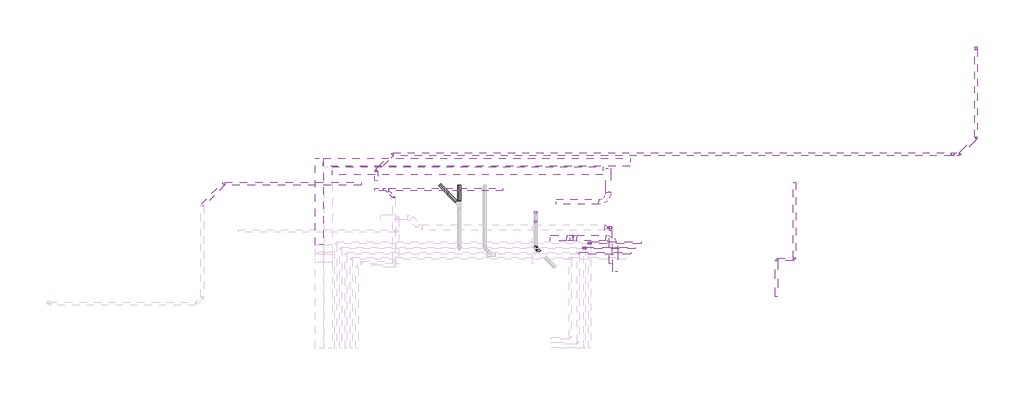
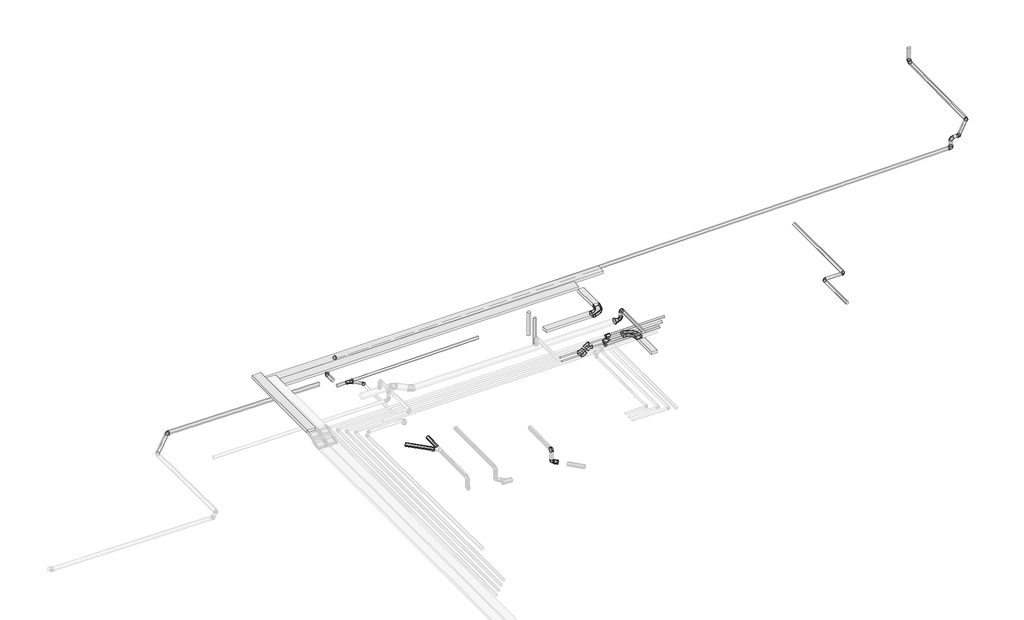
# One storey, part 5 of 5: 26 pipe segments, 19 pipe fittings, 9 cable carrier segments, 4 cable carrier fittings, 3 duct fittings, 2 duct segments.
"""IFC4 building model written with IfcOpenShell, lengths in millimetres."""

from ifc_helpers import new_model, si_unit, point, frame, frame_2d, origin, place, context, project, spatial, polyline, circle_curve, trimmed, segment, composite_curve, outline, extrude, transform, mapped, element, save
from components import m_codo_horizontal_de_canal_el_01cafb92, m_codo_vertical_exterior_de_canal_sf_2009c7b2, m_codo_vertical_interior_de_canal_sf_1a39cf6d, duct_fitting_e1dc29f6, m_codo_redondo_ext_1_d_85067ab4, pipe_fitting_b994c117, pipe_fitting_7b861d32, pipe_fitting_67d104e7, pipe_fitting_3454c7e7, pipe_fitting_f9aaa2fa, pipe_fitting_5746b48a, pipe_fitting_3a68447e, pipe_fitting_22462b75, pipe_fitting_87aeffad, pipe_fitting_1794739a, pipe_fitting_8d725a5c, pipe_fitting_c1f1a72e, t_soldadura_a_enchufe_ff252817

model = new_model("IFC4")

# Units and contexts
model_context = context("Model", 3, world=origin())
ifc_project = project(units=[si_unit("LENGTHUNIT", "METRE", prefix="MILLI")], contexts=[model_context])

# Site, building, storey
site = spatial("IfcSite", under=ifc_project)
building = spatial("IfcBuilding", under=site)
storey = spatial("IfcBuildingStorey", under=building, Name="Nivell 01 P01_PP", Elevation=11160.0)

# Cable carrier fittings
placement = place(None, origin())
m_codo_horizontal_de_canal_el_shape = m_codo_horizontal_de_canal_el_01cafb92(model_context)
element("IfcCableCarrierFitting", 1, ObjectType="M_Codo horizontal de canal : EL", at=placement, inside=storey, context=model_context, shape_type="MappedRepresentation", body=[
    mapped(m_codo_horizontal_de_canal_el_shape, transform((16260.4560007, 7993.9729991, 13970.0), x_axis=(1.0, 0.0, 0.0), y_axis=(0.0, 1.0, 0.0), z_axis=(0.0, 0.0, 1.0))),
])
element("IfcCableCarrierFitting", 2, ObjectType="M_Codo horizontal de canal : SF", at=placement, inside=storey, context=model_context, shape_type="MappedRepresentation", body=[
    mapped(m_codo_horizontal_de_canal_el_shape, transform((16540.4560007, 6585.5467988, 13970.0), x_axis=(0.0, 1.0, 0.0), y_axis=(-1.0, 0.0, 0.0), z_axis=(0.0, 0.0, 1.0))),
])
m_codo_vertical_exterior_de_canal_sf_shape = m_codo_vertical_exterior_de_canal_sf_2009c7b2(model_context)
element("IfcCableCarrierFitting", 3, ObjectType="M_Codo vertical exterior de canal : SF", at=placement, inside=storey, context=model_context, shape_type="MappedRepresentation", body=[
    mapped(m_codo_vertical_exterior_de_canal_sf_shape, transform((14940.4560007, 6585.5467988, 13970.0), x_axis=(-1.0, 0.0, 0.0), y_axis=(0.0, 0.0, -1.0), z_axis=(0.0, -1.0, 0.0))),
])
m_codo_vertical_interior_de_canal_sf_shape = m_codo_vertical_interior_de_canal_sf_1a39cf6d(model_context)
element("IfcCableCarrierFitting", 4, ObjectType="M_Codo vertical interior de canal : SF", at=placement, inside=storey, context=model_context, shape_type="MappedRepresentation", body=[
    mapped(m_codo_vertical_interior_de_canal_sf_shape, transform((14749.5371698, 6585.5467988, 13779.0811691), x_axis=(-0.707106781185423, 0.0, -0.7071067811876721), y_axis=(-0.7071067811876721, 0.0, 0.707106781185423), z_axis=(0.0, 1.0, 0.0))),
])

# Cable carrier segments
element("IfcCableCarrierSegment", 5, ObjectType="EL", at=placement, inside=storey, context=model_context, shape_type="SweptSolid", body=[
    extrude(outline(polyline([(17114.9442475, 9685.9660196), (17114.9442475, 9385.9660196), (5158.2381883, 9385.9660196), (5158.2381883, 9685.9660196), (17114.9442475, 9685.9660196)])), frame((0.0, 0.0, 14210.0), z_axis=(0.0, 0.0, 1.0), x_axis=(1.0, 0.0, 0.0)), (0.0, 0.0, 1.0), 100.0),
])
element("IfcCableCarrierSegment", 6, ObjectType="EL", at=placement, inside=storey, context=model_context, shape_type="SweptSolid", body=[
    extrude(outline(polyline([(5507.0671065, 9056.732053), (5507.0671065, 9356.732053), (16057.0671065, 9356.732053), (16057.0671065, 9056.732053), (5507.0671065, 9056.732053)])), frame((0.0, 0.0, 14210.0), z_axis=(0.0, 0.0, 1.0), x_axis=(1.0, 0.0, 0.0)), (0.0, 0.0, 1.0), 100.0),
])
element("IfcCableCarrierSegment", 7, ObjectType="EL", at=placement, inside=storey, context=model_context, shape_type="SweptSolid", body=[
    extrude(outline(polyline([(14245.4560007, 7893.9729991), (14245.4560007, 8093.9729991), (15885.4560007, 8093.9729991), (15885.4560007, 7893.9729991), (14245.4560007, 7893.9729991)])), frame((0.0, 0.0, 13920.0), z_axis=(0.0, 0.0, 1.0), x_axis=(1.0, 0.0, 0.0)), (0.0, 0.0, 1.0), 100.0),
])
element("IfcCableCarrierSegment", 8, ObjectType="EL", at=placement, inside=storey, context=model_context, shape_type="SweptSolid", body=[
    extrude(outline(polyline([(16360.4560007, 8368.9729991), (16160.4560007, 8368.9729991), (16160.4560007, 9293.9729991), (16360.4560007, 9293.9729991), (16360.4560007, 8368.9729991)])), frame((0.0, 0.0, 13920.0), z_axis=(0.0, 0.0, 1.0), x_axis=(1.0, 0.0, 0.0)), (0.0, 0.0, 1.0), 100.0),
])
element("IfcCableCarrierSegment", 9, ObjectType="EL", at=placement, inside=storey, context=model_context, shape_type="SweptSolid", body=[
    extrude(outline(polyline([(4858.2381883, 9685.9660196), (5158.2381883, 9685.9660196), (5158.2381883, 6318.3981673), (4858.2381883, 6318.3981673), (4858.2381883, 9685.9660196)])), frame((0.0, 0.0, 14410.0), z_axis=(0.0, 0.0, 1.0), x_axis=(1.0, 0.0, 0.0)), (0.0, 0.0, 1.0), 100.0),
])
element("IfcCableCarrierSegment", 10, ObjectType="SF", at=placement, inside=storey, context=model_context, shape_type="SweptSolid", body=[
    extrude(outline(polyline([(16165.4560007, 6685.5467988), (16165.4560007, 6485.5467988), (15040.3088145, 6485.5467988), (15040.3088145, 6685.5467988), (16165.4560007, 6685.5467988)])), frame((0.0, 0.0, 13920.0), z_axis=(0.0, 0.0, 1.0), x_axis=(1.0, 0.0, 0.0)), (0.0, 0.0, 1.0), 100.0),
])
element("IfcCableCarrierSegment", 11, ObjectType="SF", at=placement, inside=storey, context=model_context, shape_type="SweptSolid", body=[
    extrude(outline(polyline([(16640.4560007, 5265.5467988), (16440.4560007, 5265.5467988), (16440.4560007, 6210.5467988), (16640.4560007, 6210.5467988), (16640.4560007, 5265.5467988)])), frame((0.0, 0.0, 13920.0), z_axis=(0.0, 0.0, 1.0), x_axis=(1.0, 0.0, 0.0)), (0.0, 0.0, 1.0), 100.0),
])
element("IfcCableCarrierSegment", 12, ObjectType="SF", at=placement, inside=storey, context=model_context, shape_type="SweptSolid", body=[
    extrude(outline(polyline([(50.0000001, -11.8033989), (50.0000001, -211.8033989), (-50.0, -211.8033989), (-50.0, -11.8033989), (50.0000001, -11.8033989)])), frame((14820.1437715, 6697.3501977, 13849.6877708), z_axis=(0.7071067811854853, 0.0, 0.7071067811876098), x_axis=(0.7071067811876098, 0.0, -0.7071067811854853)), (0.0, 0.0, 1.0), 70.2943725),
])
element("IfcCableCarrierSegment", 13, ObjectType="SF", at=placement, inside=storey, context=model_context, shape_type="SweptSolid", body=[
    extrude(outline(polyline([(14649.6843561, 6685.5467988), (14649.6843561, 6485.5467988), (14009.5371698, 6485.5467988), (14009.5371698, 6685.5467988), (14649.6843561, 6685.5467988)])), frame((0.0, 0.0, 13729.0811691), z_axis=(0.0, 0.0, 1.0), x_axis=(1.0, 0.0, 0.0)), (0.0, 0.0, 1.0), 100.0),
])

# Duct fittings
duct_fitting_shape = duct_fitting_e1dc29f6(model_context)
element("IfcDuctFitting", 14, ObjectType="M_Transición redonda - Ángulo : EXT_45 graus", at=placement, inside=storey, context=model_context, shape_type="MappedRepresentation", body=[
    mapped(duct_fitting_shape, transform((16250.5896993, 6992.2199701, 14240.0), x_axis=(-1.0, 0.0, 0.0), y_axis=(0.0, -1.0, 0.0), z_axis=(0.0, 0.0, 1.0))),
])
m_codo_redondo_ext_1_d_shape = m_codo_redondo_ext_1_d_85067ab4(model_context)
element("IfcDuctFitting", 15, ObjectType="M_Codo redondo : EXT_1 D", at=placement, inside=storey, context=model_context, shape_type="MappedRepresentation", body=[
    mapped(m_codo_redondo_ext_1_d_shape, transform((16350.5896993, 6992.2199701, 14610.0), x_axis=(0.0, 1.0, 0.0), y_axis=(0.0, 0.0, -1.0), z_axis=(-1.0, 0.0, 0.0))),
])
element("IfcDuctFitting", 16, ObjectType="M_Codo redondo : EXT_1 D", at=placement, inside=storey, context=model_context, shape_type="MappedRepresentation", body=[
    mapped(m_codo_redondo_ext_1_d_shape, transform((16350.5896993, 6992.2199701, 14240.0), x_axis=(0.0, 0.0, -1.0), y_axis=(-1.0, 0.0, 0.0), z_axis=(0.0, 1.0, 0.0))),
])

# Duct segments
element("IfcDuctSegment", 17, ObjectType="EXT_Acer Galvanitzat - Rígid", at=placement, inside=storey, context=model_context, shape_type="SweptSolid", body=[
    extrude(outline(composite_curve([segment(trimmed(circle_curve(frame_2d((14610.0, 16350.5896993)), 50.0), [point((14610.0, 16300.5896993))], [point((14560.0, 16350.5896993))], False, "CARTESIAN"), True, "CONTINUOUS"), segment(trimmed(circle_curve(frame_2d((14610.0, 16350.5896993)), 50.0), [point((14560.0, 16350.5896993))], [point((14610.0, 16400.5896993))], False, "CARTESIAN"), True, "CONTINUOUS"), segment(trimmed(circle_curve(frame_2d((14610.0, 16350.5896993)), 50.0), [point((14610.0, 16400.5896993))], [point((14660.0, 16350.5896993))], False, "CARTESIAN"), True, "CONTINUOUS"), segment(trimmed(circle_curve(frame_2d((14610.0, 16350.5896993)), 50.0), [point((14660.0, 16350.5896993))], [point((14610.0, 16300.5896993))], False, "CARTESIAN"), True, "CONTINUOUS")], self_intersect=False)), frame((0.0, 5590.7319202, 0.0), z_axis=(0.0, 1.0, 0.0), x_axis=(0.0, 0.0, 1.0)), (0.0, 0.0, 1.0), 1301.48805),
])
element("IfcDuctSegment", 18, ObjectType="EXT_Acer Galvanitzat - Rígid", at=placement, inside=storey, context=model_context, shape_type="SweptSolid", body=[
    extrude(outline(composite_curve([segment(trimmed(circle_curve(frame_2d((16350.5896993, 6992.2199701)), 50.0), [point((16400.5896993, 6992.2199701))], [point((16350.5896993, 6942.2199701))], False, "CARTESIAN"), True, "CONTINUOUS"), segment(trimmed(circle_curve(frame_2d((16350.5896993, 6992.2199701)), 50.0), [point((16350.5896993, 6942.2199701))], [point((16300.5896993, 6992.2199701))], False, "CARTESIAN"), True, "CONTINUOUS"), segment(trimmed(circle_curve(frame_2d((16350.5896993, 6992.2199701)), 50.0), [point((16300.5896993, 6992.2199701))], [point((16350.5896993, 7042.2199701))], False, "CARTESIAN"), True, "CONTINUOUS"), segment(trimmed(circle_curve(frame_2d((16350.5896993, 6992.2199701)), 50.0), [point((16350.5896993, 7042.2199701))], [point((16400.5896993, 6992.2199701))], False, "CARTESIAN"), True, "CONTINUOUS")], self_intersect=False)), frame((0.0, 0.0, 14340.0), z_axis=(0.0, 0.0, 1.0), x_axis=(1.0, 0.0, 0.0)), (0.0, 0.0, 1.0), 170.0),
])

# Pipe fittings
pipe_fitting_shape = pipe_fitting_b994c117(model_context)
element("IfcPipeFitting", 19, ObjectType="M_Codo - Genérico : Estándar", at=placement, inside=storey, context=model_context, shape_type="MappedRepresentation", body=[
    mapped(pipe_fitting_shape, transform((1289.6338429, 8697.1853916, 14217.6395791), x_axis=(-0.9999500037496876, 0.0, 0.009999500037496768), y_axis=(4.141685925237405e-05, -0.9999914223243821, 0.00414168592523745), z_axis=(0.009999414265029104, 0.004141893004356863, 0.9999414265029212))),
])
pipe_fitting_2_shape = pipe_fitting_7b861d32(model_context)
element("IfcPipeFitting", 20, ObjectType="M_Codo - Genérico : Estándar", at=placement, inside=storey, context=model_context, shape_type="MappedRepresentation", body=[
    mapped(pipe_fitting_2_shape, transform((7914.0627734, 8170.8910377, 14064.6011955), x_axis=(0.0, 0.9999500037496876, -0.00999950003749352), y_axis=(-0.999991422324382, -4.141685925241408e-05, -0.004141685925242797), z_axis=(-0.004141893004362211, 0.009999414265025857, 0.9999414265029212))),
])
pipe_fitting_3_shape = pipe_fitting_67d104e7(model_context)
element("IfcPipeFitting", 21, ObjectType="M_Codo - Genérico : Estándar", at=placement, inside=storey, context=model_context, shape_type="MappedRepresentation", body=[
    mapped(pipe_fitting_3_shape, transform((30589.4059114, 10484.655764, 14624.9769213), x_axis=(0.0, -0.9999500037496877, -0.009999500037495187), y_axis=(0.9999914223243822, -4.141685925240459e-05, 0.004141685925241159), z_axis=(-0.004141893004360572, -0.009999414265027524, 0.9999414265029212))),
])
element("IfcPipeFitting", 22, ObjectType="M_Codo - Genérico : Estándar", at=placement, inside=storey, context=model_context, shape_type="MappedRepresentation", body=[
    mapped(pipe_fitting_3_shape, transform((7870.1942893, 9850.5932442, 14044.0689991), x_axis=(0.7070714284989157, 0.7070714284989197, 0.009999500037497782), y_axis=(-0.7070714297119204, 0.7071300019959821, -0.004141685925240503), z_axis=(-0.009999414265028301, -0.004141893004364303, 0.9999414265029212))),
])
element("IfcPipeFitting", 23, ObjectType="M_Codo - Genérico : Estándar", at=placement, inside=storey, context=model_context, shape_type="MappedRepresentation", body=[
    mapped(pipe_fitting_3_shape, transform((7222.9422017, 9203.3411566, 14034.9154723), x_axis=(0.0, 0.9999500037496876, 0.009999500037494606), y_axis=(-0.9999914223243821, 4.141685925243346e-05, -0.004141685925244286), z_axis=(-0.004141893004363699, -0.009999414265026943, 0.9999414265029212))),
])
pipe_fitting_4_shape = pipe_fitting_3454c7e7(model_context)
element("IfcPipeFitting", 24, ObjectType="M_Codo - Genérico : Estándar", at=placement, inside=storey, context=model_context, shape_type="MappedRepresentation", body=[
    mapped(pipe_fitting_4_shape, transform((30589.4059114, 13986.9636366, 14660.0), x_axis=(0.0, 0.0, -1.0), y_axis=(0.0, 1.0, 0.0), z_axis=(1.0, 0.0, 0.0))),
])
element("IfcPipeFitting", 25, ObjectType="M_Codo - Genérico : Estándar", at=placement, inside=storey, context=model_context, shape_type="MappedRepresentation", body=[
    mapped(pipe_fitting_4_shape, transform((29687.5503889, 9850.5932442, 14262.2425601), x_axis=(0.9999500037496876, 0.0, 0.00999950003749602), y_axis=(0.00999950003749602, 0.0, -0.9999500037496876), z_axis=(0.0, 1.0, 0.0))),
])
pipe_fitting_5_shape = pipe_fitting_f9aaa2fa(model_context)
element("IfcPipeFitting", 26, ObjectType="M_Codo - Genérico : Estándar", at=placement, inside=storey, context=model_context, shape_type="MappedRepresentation", body=[
    mapped(pipe_fitting_5_shape, transform((29955.352721, 9850.6025322, 14616.0030113), x_axis=(-0.7070713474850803, -0.7070713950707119, -0.010007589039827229), y_axis=(0.7070715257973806, -0.7071299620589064, 0.0041320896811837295), z_axis=(-0.009998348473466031, -0.004154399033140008, 0.9999413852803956))),
])
pipe_fitting_6_shape = pipe_fitting_5746b48a(model_context)
element("IfcPipeFitting", 27, ObjectType="M_Codo - Genérico : Estándar", at=placement, inside=storey, context=model_context, shape_type="MappedRepresentation", body=[
    mapped(pipe_fitting_6_shape, transform((29687.5503889, 9850.6025322, 14613.3252733), x_axis=(-0.9999500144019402, 0.0, -0.009998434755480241), y_axis=(-0.009998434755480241, 0.0, 0.9999500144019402), z_axis=(0.0, 1.0, 0.0))),
])
pipe_fitting_7_shape = pipe_fitting_3a68447e(model_context)
element("IfcPipeFitting", 28, ObjectType="M_Codo - Genérico : Estándar", at=placement, inside=storey, context=model_context, shape_type="MappedRepresentation", body=[
    mapped(pipe_fitting_7_shape, transform((15337.4352568, 6194.2427547, 14122.5), x_axis=(0.0, 0.0, -1.0), y_axis=(0.0, -1.0, 0.0), z_axis=(-1.0, 0.0, 0.0))),
])
element("IfcPipeFitting", 29, ObjectType="M_Codo - Genérico : Estándar", at=placement, inside=storey, context=model_context, shape_type="MappedRepresentation", body=[
    mapped(pipe_fitting_7_shape, transform((15537.4352568, 6394.2427547, 14122.5), x_axis=(0.0, 0.0, -1.0), y_axis=(0.0, -1.0, 0.0), z_axis=(-1.0, 0.0, 0.0))),
])
pipe_fitting_8_shape = pipe_fitting_22462b75(model_context)
element("IfcPipeFitting", 30, ObjectType="M_Te - Genérica : Estándar", at=placement, inside=storey, context=model_context, shape_type="MappedRepresentation", body=[
    mapped(pipe_fitting_8_shape, transform((7604.403606, 8480.5502052, 14060.2219535), x_axis=(0.9999500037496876, 0.0, 0.009999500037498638), y_axis=(4.141685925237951e-05, 0.9999914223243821, -0.004141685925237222), z_axis=(-0.009999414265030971, 0.004141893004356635, 0.9999414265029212))),
])
pipe_fitting_9_shape = pipe_fitting_87aeffad(model_context)
element("IfcPipeFitting", 31, ObjectType="M_Codo - Genérico : Estándar", at=placement, inside=storey, context=model_context, shape_type="MappedRepresentation", body=[
    mapped(pipe_fitting_9_shape, transform((22814.9203808, 5744.3728734, 14209.2), x_axis=(-1.0, 0.0, 0.0), y_axis=(0.0, -1.0, 0.0), z_axis=(0.0, 0.0, 1.0))),
])
element("IfcPipeFitting", 32, ObjectType="M_Codo - Genérico : Estándar", at=placement, inside=storey, context=model_context, shape_type="MappedRepresentation", body=[
    mapped(pipe_fitting_9_shape, transform((23514.9945789, 5744.3728734, 14209.2), x_axis=(1.0, 0.0, 0.0), y_axis=(0.0, 1.0, 0.0), z_axis=(0.0, 0.0, 1.0))),
])
pipe_fitting_10_shape = pipe_fitting_1794739a(model_context)
element("IfcPipeFitting", 33, ObjectType="M_Codo - Genérico : Estándar", at=placement, inside=storey, context=model_context, shape_type="MappedRepresentation", body=[
    mapped(pipe_fitting_10_shape, transform((13434.8502044, 6197.9727746, 10867.6717308), x_axis=(0.0, -0.0037186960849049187, 0.9999930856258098), y_axis=(0.0, 0.9999930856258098, 0.0037186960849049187), z_axis=(-1.0, 0.0, 0.0))),
])
pipe_fitting_11_shape = pipe_fitting_8d725a5c(model_context)
element("IfcPipeFitting", 34, ObjectType="M_Codo - Genérico : Estándar", at=placement, inside=storey, context=model_context, shape_type="MappedRepresentation", body=[
    mapped(pipe_fitting_11_shape, transform((13434.8502044, 6199.6089926, 10427.6770148), x_axis=(0.0, 0.0037186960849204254, -0.9999930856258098), y_axis=(0.7065070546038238, -0.7077011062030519, -0.0026317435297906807), z_axis=(-0.7077059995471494, -0.7065021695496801, -0.0026272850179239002))),
])
pipe_fitting_12_shape = pipe_fitting_c1f1a72e(model_context)
element("IfcPipeFitting", 35, ObjectType="M_Transición - Genérica : Estándar", at=placement, inside=storey, context=model_context, shape_type="MappedRepresentation", body=[
    mapped(pipe_fitting_12_shape, transform((13478.9883737, 6155.3979381, 10427.0522914), x_axis=(0.7064878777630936, -0.7076544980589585, -0.009999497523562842), y_axis=(0.7077059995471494, 0.70650216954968, 0.002627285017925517), z_axis=(0.005205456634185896, -0.008932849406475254, 0.9999465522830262))),
])
t_soldadura_a_enchufe_shape = t_soldadura_a_enchufe_ff252817(model_context)
element("IfcPipeFitting", 36, ObjectType="T-Soldadura a enchufe : Estándar", at=placement, inside=storey, context=model_context, shape_type="MappedRepresentation", body=[
    mapped(t_soldadura_a_enchufe_shape, transform((15337.4352568, 6194.2427547, 14272.5), x_axis=(-1.0, 0.0, 0.0), y_axis=(0.0, 0.0, 1.0), z_axis=(0.0, 1.0, 0.0))),
])
element("IfcPipeFitting", 37, ObjectType="T-Soldadura a enchufe : Estándar", at=placement, inside=storey, context=model_context, shape_type="MappedRepresentation", body=[
    mapped(t_soldadura_a_enchufe_shape, transform((15537.4352568, 6394.2427547, 14272.5), x_axis=(-1.0, 0.0, 0.0), y_axis=(0.0, 0.0, 1.0), z_axis=(0.0, 1.0, 0.0))),
])

# Pipe segments
element("IfcPipeSegment", 38, ObjectType="PVC_Baixant", at=placement, inside=storey, context=model_context, shape_type="SweptSolid", body=[
    extrude(outline(composite_curve([segment(trimmed(circle_curve(frame_2d((13434.5619983, 7581.1908892)), 55.0), [point((13379.5619983, 7581.1908892))], [point((13434.5619983, 7636.1908892))], False, "CARTESIAN"), True, "CONTINUOUS"), segment(trimmed(circle_curve(frame_2d((13434.5619983, 7581.1908892)), 55.0), [point((13434.5619983, 7636.1908892))], [point((13489.5619983, 7581.1908892))], False, "CARTESIAN"), True, "CONTINUOUS"), segment(trimmed(circle_curve(frame_2d((13434.5619983, 7581.1908892)), 55.0), [point((13489.5619983, 7581.1908892))], [point((13434.5619983, 7526.1908892))], False, "CARTESIAN"), True, "CONTINUOUS"), segment(trimmed(circle_curve(frame_2d((13434.5619983, 7581.1908892)), 55.0), [point((13434.5619983, 7526.1908892))], [point((13379.5619983, 7581.1908892))], False, "CARTESIAN"), True, "CONTINUOUS")], self_intersect=False)), frame((0.0, 0.0, 14322.3112718), z_axis=(0.0, 0.0, 1.0), x_axis=(1.0, 0.0, 0.0)), (0.0, 0.0, 1.0), 837.6887282),
])
element("IfcPipeSegment", 39, ObjectType="PVC_Baixant", at=placement, inside=storey, context=model_context, shape_type="SweptSolid", body=[
    extrude(outline(composite_curve([segment(trimmed(circle_curve(frame_2d((0.0, 45.0)), 45.0), [point((-45.0, 45.0))], [point((0.0, 90.0))], False, "CARTESIAN"), True, "CONTINUOUS"), segment(trimmed(circle_curve(frame_2d((0.0, 45.0)), 45.0), [point((0.0, 90.0))], [point((45.0, 45.0))], False, "CARTESIAN"), True, "CONTINUOUS"), segment(trimmed(circle_curve(frame_2d((0.0, 45.0)), 45.0), [point((45.0, 45.0))], [point((0.0, 0.0))], False, "CARTESIAN"), True, "CONTINUOUS"), segment(trimmed(circle_curve(frame_2d((0.0, 45.0)), 45.0), [point((0.0, 0.0))], [point((-45.0, 45.0))], False, "CARTESIAN"), True, "CONTINUOUS")], self_intersect=False)), frame((13440.7814256, 7174.9350253, 14175.6736808), z_axis=(7.499326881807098e-05, 1.4604734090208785e-06, 0.9999999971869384), x_axis=(0.9999999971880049, -1.0952661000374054e-10, -7.4993268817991e-05)), (0.0, 0.0, 1.0), 984.3263739),
])
element("IfcPipeSegment", 40, ObjectType="PVC_Baixant", at=placement, inside=storey, context=model_context, shape_type="SweptSolid", body=[
    extrude(outline(composite_curve([segment(trimmed(circle_curve(frame_2d((0.0, -45.0)), 45.0), [point((0.0, 0.0))], [point((45.0, -45.0))], False, "CARTESIAN"), True, "CONTINUOUS"), segment(trimmed(circle_curve(frame_2d((0.0, -45.0)), 45.0), [point((45.0, -45.0))], [point((0.0, -90.0))], False, "CARTESIAN"), True, "CONTINUOUS"), segment(trimmed(circle_curve(frame_2d((0.0, -45.0)), 45.0), [point((0.0, -90.0))], [point((-45.0, -45.0))], False, "CARTESIAN"), True, "CONTINUOUS"), segment(trimmed(circle_curve(frame_2d((0.0, -45.0)), 45.0), [point((-45.0, -45.0))], [point((0.0, 0.0))], False, "CARTESIAN"), True, "CONTINUOUS")], self_intersect=False)), frame((7715.5489162, 8525.5502052, 14061.3334066), z_axis=(0.9999500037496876, 0.0, 0.009999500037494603), x_axis=(0.009999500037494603, 0.0, -0.9999500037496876)), (0.0, 0.0, 1.0), 4443.1422128),
])
element("IfcPipeSegment", 41, ObjectType="PVC_Baixant", at=placement, inside=storey, context=model_context, shape_type="SweptSolid", body=[
    extrude(outline(composite_curve([segment(trimmed(circle_curve(frame_2d((30589.4059114, 13986.9636366)), 55.0), [point((30534.4059114, 13986.9636366))], [point((30589.4059114, 14041.9636366))], False, "CARTESIAN"), True, "CONTINUOUS"), segment(trimmed(circle_curve(frame_2d((30589.4059114, 13986.9636366)), 55.0), [point((30589.4059114, 14041.9636366))], [point((30644.4059114, 13986.9636366))], False, "CARTESIAN"), True, "CONTINUOUS"), segment(trimmed(circle_curve(frame_2d((30589.4059114, 13986.9636366)), 55.0), [point((30644.4059114, 13986.9636366))], [point((30589.4059114, 13931.9636366))], False, "CARTESIAN"), True, "CONTINUOUS"), segment(trimmed(circle_curve(frame_2d((30589.4059114, 13986.9636366)), 55.0), [point((30589.4059114, 13931.9636366))], [point((30534.4059114, 13986.9636366))], False, "CARTESIAN"), True, "CONTINUOUS")], self_intersect=False)), frame((0.0, 0.0, 14722.3112718), z_axis=(0.0, 0.0, 1.0), x_axis=(1.0, 0.0, 0.0)), (0.0, 0.0, 1.0), 437.6887282),
])
element("IfcPipeSegment", 42, ObjectType="PVC_Baixant", at=placement, inside=storey, context=model_context, shape_type="SweptSolid", body=[
    extrude(outline(composite_curve([segment(trimmed(circle_curve(frame_2d((0.0, -55.0)), 55.0), [point((-55.0, -55.0))], [point((0.0, 0.0))], False, "CARTESIAN"), True, "CONTINUOUS"), segment(trimmed(circle_curve(frame_2d((0.0, -55.0)), 55.0), [point((0.0, 0.0))], [point((55.0, -55.0))], False, "CARTESIAN"), True, "CONTINUOUS"), segment(trimmed(circle_curve(frame_2d((0.0, -55.0)), 55.0), [point((55.0, -55.0))], [point((0.0, -110.0))], False, "CARTESIAN"), True, "CONTINUOUS"), segment(trimmed(circle_curve(frame_2d((0.0, -55.0)), 55.0), [point((0.0, -110.0))], [point((-55.0, -55.0))], False, "CARTESIAN"), True, "CONTINUOUS")], self_intersect=False)), frame((30589.4059114, 10511.2724723, 14570.2403384), z_axis=(0.0, 0.9999500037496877, 0.009999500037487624), x_axis=(1.0, 0.0, 0.0)), (0.0, 0.0, 1.0), 3414.1036727),
])
element("IfcPipeSegment", 43, ObjectType="PVC_Baixant", at=placement, inside=storey, context=model_context, shape_type="SweptSolid", body=[
    extrude(outline(composite_curve([segment(trimmed(circle_curve(frame_2d((0.0, -55.0)), 55.0), [point((-54.997246, -54.4496102))], [point((0.5503898, -0.0027539))], False, "CARTESIAN"), True, "CONTINUOUS"), segment(trimmed(circle_curve(frame_2d((0.0, -55.0)), 55.0), [point((0.5503898, -0.0027539))], [point((54.997246, -55.5503898))], False, "CARTESIAN"), True, "CONTINUOUS"), segment(trimmed(circle_curve(frame_2d((0.0, -55.0)), 55.0), [point((54.997246, -55.5503898))], [point((-0.5503899, -109.9972461))], False, "CARTESIAN"), True, "CONTINUOUS"), segment(trimmed(circle_curve(frame_2d((0.0, -55.0)), 55.0), [point((-0.5503899, -109.9972461))], [point((-54.997246, -54.4496102))], False, "CARTESIAN"), True, "CONTINUOUS")], self_intersect=False)), frame((29973.7846855, 9869.8128666, 14561.2693976), z_axis=(0.7070713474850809, 0.7070713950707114, 0.010007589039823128), x_axis=(0.7071422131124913, -0.707000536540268, -0.010006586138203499)), (0.0, 0.0, 1.0), 844.5954746),
])
element("IfcPipeSegment", 44, ObjectType="PVC_Baixant", at=placement, inside=storey, context=model_context, shape_type="SweptSolid", body=[
    extrude(outline(composite_curve([segment(trimmed(circle_curve(frame_2d((0.0, -55.0)), 55.0), [point((0.0, 0.0))], [point((55.0, -55.0))], False, "CARTESIAN"), True, "CONTINUOUS"), segment(trimmed(circle_curve(frame_2d((0.0, -55.0)), 55.0), [point((55.0, -55.0))], [point((0.0, -110.0))], False, "CARTESIAN"), True, "CONTINUOUS"), segment(trimmed(circle_curve(frame_2d((0.0, -55.0)), 55.0), [point((0.0, -110.0))], [point((-55.0, -55.0))], False, "CARTESIAN"), True, "CONTINUOUS"), segment(trimmed(circle_curve(frame_2d((0.0, -55.0)), 55.0), [point((-55.0, -55.0))], [point((0.0, 0.0))], False, "CARTESIAN"), True, "CONTINUOUS")], self_intersect=False)), frame((7896.2610251, 9905.5932442, 14044.3296664), z_axis=(0.9999500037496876, 0.0, 0.009999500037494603), x_axis=(0.009999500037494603, 0.0, -0.9999500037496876)), (0.0, 0.0, 1.0), 21730.0676293),
])
element("IfcPipeSegment", 45, ObjectType="PVC_Baixant", at=placement, inside=storey, context=model_context, shape_type="SweptSolid", body=[
    extrude(outline(composite_curve([segment(trimmed(circle_curve(frame_2d((0.0, -55.0)), 55.0), [point((-54.9972505, -54.450055))], [point((0.549945, -0.0027495))], False, "CARTESIAN"), True, "CONTINUOUS"), segment(trimmed(circle_curve(frame_2d((0.0, -55.0)), 55.0), [point((0.549945, -0.0027495))], [point((54.9972505, -55.549945))], False, "CARTESIAN"), True, "CONTINUOUS"), segment(trimmed(circle_curve(frame_2d((0.0, -55.0)), 55.0), [point((54.9972505, -55.549945))], [point((-0.5499449, -109.9972505))], False, "CARTESIAN"), True, "CONTINUOUS"), segment(trimmed(circle_curve(frame_2d((0.0, -55.0)), 55.0), [point((-0.5499449, -109.9972505))], [point((-54.9972505, -54.450055))], False, "CARTESIAN"), True, "CONTINUOUS")], self_intersect=False)), frame((7241.3741673, 9222.5508619, 13980.1816388), z_axis=(0.7070714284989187, 0.7070714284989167, 0.009999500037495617), x_axis=(0.7071421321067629, -0.7070007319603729, -0.009998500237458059)), (0.0, 0.0, 1.0), 863.2623688),
])
element("IfcPipeSegment", 46, ObjectType="PVC_Baixant", at=placement, inside=storey, context=model_context, shape_type="SweptSolid", body=[
    extrude(outline(composite_curve([segment(trimmed(circle_curve(frame_2d((0.0, -55.0)), 55.0), [point((0.0, 0.0))], [point((55.0, -55.0))], False, "CARTESIAN"), True, "CONTINUOUS"), segment(trimmed(circle_curve(frame_2d((0.0, -55.0)), 55.0), [point((55.0, -55.0))], [point((0.0, -110.0))], False, "CARTESIAN"), True, "CONTINUOUS"), segment(trimmed(circle_curve(frame_2d((0.0, -55.0)), 55.0), [point((0.0, -110.0))], [point((-55.0, -55.0))], False, "CARTESIAN"), True, "CONTINUOUS"), segment(trimmed(circle_curve(frame_2d((0.0, -55.0)), 55.0), [point((-55.0, -55.0))], [point((0.0, 0.0))], False, "CARTESIAN"), True, "CONTINUOUS")], self_intersect=False)), frame((29749.8586125, 9905.6025322, 14613.9482891), z_axis=(0.9999500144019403, 0.0, 0.009998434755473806), x_axis=(0.009998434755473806, 0.0, -0.9999500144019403)), (0.0, 0.0, 1.0), 179.4363416),
])
element("IfcPipeSegment", 47, ObjectType="PVC_Baixant", at=placement, inside=storey, context=model_context, shape_type="SweptSolid", body=[
    extrude(outline(composite_curve([segment(trimmed(circle_curve(frame_2d((0.0, 55.0)), 55.0), [point((-55.0, 55.0))], [point((0.0, 110.0))], False, "CARTESIAN"), True, "CONTINUOUS"), segment(trimmed(circle_curve(frame_2d((0.0, 55.0)), 55.0), [point((0.0, 110.0))], [point((55.0, 55.0))], False, "CARTESIAN"), True, "CONTINUOUS"), segment(trimmed(circle_curve(frame_2d((0.0, 55.0)), 55.0), [point((55.0, 55.0))], [point((0.0, 0.0))], False, "CARTESIAN"), True, "CONTINUOUS"), segment(trimmed(circle_curve(frame_2d((0.0, 55.0)), 55.0), [point((0.0, 0.0))], [point((-55.0, 55.0))], False, "CARTESIAN"), True, "CONTINUOUS")], self_intersect=False)), frame((29687.5503889, 9795.5932442, 14324.5560876), z_axis=(0.0, 4.1014092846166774e-05, 0.9999999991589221), x_axis=(1.0, 0.0, 0.0)), (0.0, 0.0, 1.0), 226.4600963),
])
element("IfcPipeSegment", 48, ObjectType="PVC_Baixant", at=placement, inside=storey, context=model_context, shape_type="SweptSolid", body=[
    extrude(outline(composite_curve([segment(trimmed(circle_curve(frame_2d((0.0, -55.0)), 55.0), [point((-55.0, -55.0))], [point((0.0, 0.0))], False, "CARTESIAN"), True, "CONTINUOUS"), segment(trimmed(circle_curve(frame_2d((0.0, -55.0)), 55.0), [point((0.0, 0.0))], [point((55.0, -55.0))], False, "CARTESIAN"), True, "CONTINUOUS"), segment(trimmed(circle_curve(frame_2d((0.0, -55.0)), 55.0), [point((55.0, -55.0))], [point((0.0, -110.0))], False, "CARTESIAN"), True, "CONTINUOUS"), segment(trimmed(circle_curve(frame_2d((0.0, -55.0)), 55.0), [point((0.0, -110.0))], [point((-55.0, -55.0))], False, "CARTESIAN"), True, "CONTINUOUS")], self_intersect=False)), frame((7222.9422017, 8816.4255701, 13976.0435665), z_axis=(0.0, 0.999950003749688, 0.009999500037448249), x_axis=(1.0, 0.0, 0.0)), (0.0, 0.0, 1.0), 361.4168927),
])
element("IfcPipeSegment", 49, ObjectType="PPR_CLI_Aquatherm Blue Pipe", at=placement, inside=storey, context=model_context, shape_type="SweptSolid", body=[
    extrude(outline(composite_curve([segment(trimmed(circle_curve(frame_2d((5994.2427547, 14272.5)), 37.5), [point((5956.7427547, 14272.5))], [point((5994.2427547, 14310.0))], False, "CARTESIAN"), True, "CONTINUOUS"), segment(trimmed(circle_curve(frame_2d((5994.2427547, 14272.5)), 37.5), [point((5994.2427547, 14310.0))], [point((6031.7427547, 14272.5))], False, "CARTESIAN"), True, "CONTINUOUS"), segment(trimmed(circle_curve(frame_2d((5994.2427547, 14272.5)), 37.5), [point((6031.7427547, 14272.5))], [point((5994.2427547, 14235.0))], False, "CARTESIAN"), True, "CONTINUOUS"), segment(trimmed(circle_curve(frame_2d((5994.2427547, 14272.5)), 37.5), [point((5994.2427547, 14235.0))], [point((5956.7427547, 14272.5))], False, "CARTESIAN"), True, "CONTINUOUS")], self_intersect=False)), frame((15125.9352568, 0.0, 0.0), z_axis=(1.0, 0.0, 0.0), x_axis=(0.0, 1.0, 0.0)), (0.0, 0.0, 1.0), 2016.3840359),
])
element("IfcPipeSegment", 50, ObjectType="PPR_CLI_Aquatherm Blue Pipe", at=placement, inside=storey, context=model_context, shape_type="SweptSolid", body=[
    extrude(outline(composite_curve([segment(trimmed(circle_curve(frame_2d((6194.2427547, 14272.5)), 37.5), [point((6156.7427547, 14272.5))], [point((6194.2427547, 14310.0))], False, "CARTESIAN"), True, "CONTINUOUS"), segment(trimmed(circle_curve(frame_2d((6194.2427547, 14272.5)), 37.5), [point((6194.2427547, 14310.0))], [point((6231.7427547, 14272.5))], False, "CARTESIAN"), True, "CONTINUOUS"), segment(trimmed(circle_curve(frame_2d((6194.2427547, 14272.5)), 37.5), [point((6231.7427547, 14272.5))], [point((6194.2427547, 14235.0))], False, "CARTESIAN"), True, "CONTINUOUS"), segment(trimmed(circle_curve(frame_2d((6194.2427547, 14272.5)), 37.5), [point((6194.2427547, 14235.0))], [point((6156.7427547, 14272.5))], False, "CARTESIAN"), True, "CONTINUOUS")], self_intersect=False)), frame((15375.9352568, 0.0, 0.0), z_axis=(1.0, 0.0, 0.0), x_axis=(0.0, 1.0, 0.0)), (0.0, 0.0, 1.0), 1966.3840359),
])
element("IfcPipeSegment", 51, ObjectType="PPR_CLI_Aquatherm Blue Pipe", at=placement, inside=storey, context=model_context, shape_type="SweptSolid", body=[
    extrude(outline(composite_curve([segment(trimmed(circle_curve(frame_2d((6394.2427547, 14272.5)), 37.5), [point((6356.7427547, 14272.5))], [point((6394.2427547, 14310.0))], False, "CARTESIAN"), True, "CONTINUOUS"), segment(trimmed(circle_curve(frame_2d((6394.2427547, 14272.5)), 37.5), [point((6394.2427547, 14310.0))], [point((6431.7427547, 14272.5))], False, "CARTESIAN"), True, "CONTINUOUS"), segment(trimmed(circle_curve(frame_2d((6394.2427547, 14272.5)), 37.5), [point((6431.7427547, 14272.5))], [point((6394.2427547, 14235.0))], False, "CARTESIAN"), True, "CONTINUOUS"), segment(trimmed(circle_curve(frame_2d((6394.2427547, 14272.5)), 37.5), [point((6394.2427547, 14235.0))], [point((6356.7427547, 14272.5))], False, "CARTESIAN"), True, "CONTINUOUS")], self_intersect=False)), frame((15575.9352568, 0.0, 0.0), z_axis=(1.0, 0.0, 0.0), x_axis=(0.0, 1.0, 0.0)), (0.0, 0.0, 1.0), 1966.3840359),
])
element("IfcPipeSegment", 52, ObjectType="PPR_CLI_Aquatherm Blue Pipe", at=placement, inside=storey, context=model_context, shape_type="SweptSolid", body=[
    extrude(outline(composite_curve([segment(trimmed(circle_curve(frame_2d((15337.4352568, 6194.2427547)), 37.5), [point((15374.9352568, 6194.2427547))], [point((15337.4352568, 6156.7427547))], False, "CARTESIAN"), True, "CONTINUOUS"), segment(trimmed(circle_curve(frame_2d((15337.4352568, 6194.2427547)), 37.5), [point((15337.4352568, 6156.7427547))], [point((15299.9352568, 6194.2427547))], False, "CARTESIAN"), True, "CONTINUOUS"), segment(trimmed(circle_curve(frame_2d((15337.4352568, 6194.2427547)), 37.5), [point((15299.9352568, 6194.2427547))], [point((15337.4352568, 6231.7427547))], False, "CARTESIAN"), True, "CONTINUOUS"), segment(trimmed(circle_curve(frame_2d((15337.4352568, 6194.2427547)), 37.5), [point((15337.4352568, 6231.7427547))], [point((15374.9352568, 6194.2427547))], False, "CARTESIAN"), True, "CONTINUOUS")], self_intersect=False)), frame((0.0, 0.0, 14167.9375), z_axis=(0.0, 0.0, 1.0), x_axis=(1.0, 0.0, 0.0)), (0.0, 0.0, 1.0), 66.0625),
])
element("IfcPipeSegment", 53, ObjectType="PPR_CLI_Aquatherm Blue Pipe", at=placement, inside=storey, context=model_context, shape_type="SweptSolid", body=[
    extrude(outline(composite_curve([segment(trimmed(circle_curve(frame_2d((15537.4352568, 6394.2427547)), 37.5), [point((15574.9352568, 6394.2427547))], [point((15537.4352568, 6356.7427547))], False, "CARTESIAN"), True, "CONTINUOUS"), segment(trimmed(circle_curve(frame_2d((15537.4352568, 6394.2427547)), 37.5), [point((15537.4352568, 6356.7427547))], [point((15499.9352568, 6394.2427547))], False, "CARTESIAN"), True, "CONTINUOUS"), segment(trimmed(circle_curve(frame_2d((15537.4352568, 6394.2427547)), 37.5), [point((15499.9352568, 6394.2427547))], [point((15537.4352568, 6431.7427547))], False, "CARTESIAN"), True, "CONTINUOUS"), segment(trimmed(circle_curve(frame_2d((15537.4352568, 6394.2427547)), 37.5), [point((15537.4352568, 6431.7427547))], [point((15574.9352568, 6394.2427547))], False, "CARTESIAN"), True, "CONTINUOUS")], self_intersect=False)), frame((0.0, 0.0, 14167.9375), z_axis=(0.0, 0.0, 1.0), x_axis=(1.0, 0.0, 0.0)), (0.0, 0.0, 1.0), 66.0625),
])
element("IfcPipeSegment", 54, ObjectType="PVC_Baixant", at=placement, inside=storey, context=model_context, shape_type="SweptSolid", body=[
    extrude(outline(composite_curve([segment(trimmed(circle_curve(frame_2d((0.0, -45.0)), 45.0), [point((44.9977504, -44.550045))], [point((0.4499551, -89.9977504))], False, "CARTESIAN"), True, "CONTINUOUS"), segment(trimmed(circle_curve(frame_2d((0.0, -45.0)), 45.0), [point((0.4499551, -89.9977504))], [point((-44.9977503, -45.449955))], False, "CARTESIAN"), True, "CONTINUOUS"), segment(trimmed(circle_curve(frame_2d((0.0, -45.0)), 45.0), [point((-44.9977503, -45.449955))], [point((-0.449955, -0.0022496))], False, "CARTESIAN"), True, "CONTINUOUS"), segment(trimmed(circle_curve(frame_2d((0.0, -45.0)), 45.0), [point((-0.449955, -0.0022496))], [point((44.9977504, -44.550045))], False, "CARTESIAN"), True, "CONTINUOUS")], self_intersect=False)), frame((7682.9952085, 8402.5949351, 14106.3289073), z_axis=(0.7070714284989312, -0.7070714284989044, 0.009999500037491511), x_axis=(0.7071421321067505, 0.7070007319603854, -0.009998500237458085)), (0.0, 0.0, 1.0), 305.0968807),
])
element("IfcPipeSegment", 55, ObjectType="PVC_Baixant", at=placement, inside=storey, context=model_context, shape_type="SweptSolid", body=[
    extrude(outline(composite_curve([segment(trimmed(circle_curve(frame_2d((0.0, -45.0)), 45.0), [point((0.0, 0.0))], [point((45.0, -45.0))], False, "CARTESIAN"), True, "CONTINUOUS"), segment(trimmed(circle_curve(frame_2d((0.0, -45.0)), 45.0), [point((45.0, -45.0))], [point((0.0, -90.0))], False, "CARTESIAN"), True, "CONTINUOUS"), segment(trimmed(circle_curve(frame_2d((0.0, -45.0)), 45.0), [point((0.0, -90.0))], [point((-45.0, -45.0))], False, "CARTESIAN"), True, "CONTINUOUS"), segment(trimmed(circle_curve(frame_2d((0.0, -45.0)), 45.0), [point((-45.0, -45.0))], [point((0.0, 0.0))], False, "CARTESIAN"), True, "CONTINUOUS")], self_intersect=False)), frame((7170.4469649, 8525.5502052, 14055.8823871), z_axis=(0.9999500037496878, 0.0, 0.009999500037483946), x_axis=(0.009999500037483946, 0.0, -0.9999500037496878)), (0.0, 0.0, 1.0), 322.8274709),
])
element("IfcPipeSegment", 56, ObjectType="PVC_Baixant", at=placement, inside=storey, context=model_context, shape_type="SweptSolid", body=[
    extrude(outline(composite_curve([segment(trimmed(circle_curve(frame_2d((0.0, -54.9999999)), 55.0), [point((-54.9972503, -55.5499725))], [point((-0.5499725, -0.0027497))], False, "CARTESIAN"), True, "CONTINUOUS"), segment(trimmed(circle_curve(frame_2d((0.0, -54.9999999)), 55.0), [point((-0.5499725, -0.0027497))], [point((54.9972502, -54.4500274))], False, "CARTESIAN"), True, "CONTINUOUS"), segment(trimmed(circle_curve(frame_2d((0.0, -54.9999999)), 55.0), [point((54.9972502, -54.4500274))], [point((0.5499725, -109.9972502))], False, "CARTESIAN"), True, "CONTINUOUS"), segment(trimmed(circle_curve(frame_2d((0.0, -54.9999999)), 55.0), [point((0.5499725, -109.9972502))], [point((-54.9972503, -55.5499725))], False, "CARTESIAN"), True, "CONTINUOUS")], self_intersect=False)), frame((10342.8583083, 8003.1065056, 10816.693123), z_axis=(-0.7070891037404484, 0.7070537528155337, 0.009999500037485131), x_axis=(0.7071244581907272, 0.7070184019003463, 0.009999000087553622)), (0.0, 0.0, 1.0), 917.9758059),
])
element("IfcPipeSegment", 57, ObjectType="PVC_Baixant", at=placement, inside=storey, context=model_context, shape_type="SweptSolid", body=[
    extrude(outline(composite_curve([segment(trimmed(circle_curve(frame_2d((0.0, -55.0)), 55.0), [point((-55.0, -55.0000005))], [point((-6e-07, 0.0))], False, "CARTESIAN"), True, "CONTINUOUS"), segment(trimmed(circle_curve(frame_2d((0.0, -55.0)), 55.0), [point((-6e-07, 0.0))], [point((55.0, -54.9999995))], False, "CARTESIAN"), True, "CONTINUOUS"), segment(trimmed(circle_curve(frame_2d((0.0, -55.0)), 55.0), [point((55.0, -54.9999995))], [point((5e-07, -110.0))], False, "CARTESIAN"), True, "CONTINUOUS"), segment(trimmed(circle_curve(frame_2d((0.0, -55.0)), 55.0), [point((5e-07, -110.0))], [point((-55.0, -55.0000005))], False, "CARTESIAN"), True, "CONTINUOUS")], self_intersect=False)), frame((10460.2240563, 8022.8645871, 10819.7610919), z_axis=(-9.574676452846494e-07, 0.9999500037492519, 0.009999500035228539), x_axis=(0.9999999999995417, 9.57419775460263e-07, 9.574200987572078e-09)), (0.0, 0.0, 1.0), 612.5518339),
])
element("IfcPipeSegment", 58, ObjectType="PVC_Baixant", at=placement, inside=storey, context=model_context, shape_type="SweptSolid", body=[
    extrude(outline(composite_curve([segment(trimmed(circle_curve(frame_2d((-1e-07, -62.5)), 62.5), [point((-62.4968858, -63.1239072))], [point((-0.6239072, -0.0031142))], False, "CARTESIAN"), True, "CONTINUOUS"), segment(trimmed(circle_curve(frame_2d((-1e-07, -62.5)), 62.5), [point((-0.6239072, -0.0031142))], [point((62.4968858, -61.8760928))], False, "CARTESIAN"), True, "CONTINUOUS"), segment(trimmed(circle_curve(frame_2d((-1e-07, -62.5)), 62.5), [point((62.4968858, -61.8760928))], [point((0.6239072, -124.9968859))], False, "CARTESIAN"), True, "CONTINUOUS"), segment(trimmed(circle_curve(frame_2d((-1e-07, -62.5)), 62.5), [point((0.6239072, -124.9968859))], [point((-62.4968858, -63.1239072))], False, "CARTESIAN"), True, "CONTINUOUS")], self_intersect=False)), frame((13579.5531731, 6055.5715035, 10363.1353058), z_axis=(-0.7064878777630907, 0.7076544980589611, 0.009999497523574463), x_axis=(0.7077251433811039, 0.7064173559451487, 0.00998201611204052)), (0.0, 0.0, 1.0), 109.7858249),
])
element("IfcPipeSegment", 59, ObjectType="PVC_Baixant", at=placement, inside=storey, context=model_context, shape_type="SweptSolid", body=[
    extrude(outline(composite_curve([segment(trimmed(circle_curve(frame_2d((0.0, -62.5)), 62.5), [point((62.4968755, -63.1249375))], [point((-0.6249376, -124.9968756))], False, "CARTESIAN"), True, "CONTINUOUS"), segment(trimmed(circle_curve(frame_2d((0.0, -62.5)), 62.5), [point((-0.6249376, -124.9968756))], [point((-62.4968756, -61.8750625))], False, "CARTESIAN"), True, "CONTINUOUS"), segment(trimmed(circle_curve(frame_2d((0.0, -62.5)), 62.5), [point((-62.4968756, -61.8750625))], [point((0.6249374, -0.0031244))], False, "CARTESIAN"), True, "CONTINUOUS"), segment(trimmed(circle_curve(frame_2d((0.0, -62.5)), 62.5), [point((0.6249374, -0.0031244))], [point((62.4968755, -63.1249375))], False, "CARTESIAN"), True, "CONTINUOUS")], self_intersect=False)), frame((1268.7125552, 8677.147899, 14280.4292017), z_axis=(-0.7070714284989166, -0.707071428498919, 0.009999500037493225), x_axis=(0.7071421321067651, -0.7070007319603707, 0.00999850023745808)), (0.0, 0.0, 1.0), 1130.8388471),
])
element("IfcPipeSegment", 60, ObjectType="PVC_Baixant", at=placement, inside=storey, context=model_context, shape_type="SweptSolid", body=[
    extrude(outline(composite_curve([segment(trimmed(circle_curve(frame_2d((0.0, -62.5)), 62.5), [point((0.0, -125.0))], [point((-62.5000001, -62.5))], False, "CARTESIAN"), True, "CONTINUOUS"), segment(trimmed(circle_curve(frame_2d((0.0, -62.5)), 62.5), [point((-62.5000001, -62.5))], [point((0.0, 0.0))], False, "CARTESIAN"), True, "CONTINUOUS"), segment(trimmed(circle_curve(frame_2d((0.0, -62.5)), 62.5), [point((0.0, 0.0))], [point((62.5, -62.5))], False, "CARTESIAN"), True, "CONTINUOUS"), segment(trimmed(circle_curve(frame_2d((0.0, -62.5)), 62.5), [point((62.5, -62.5))], [point((0.0, -125.0))], False, "CARTESIAN"), True, "CONTINUOUS")], self_intersect=False)), frame((6649.365863, 8759.6853916, 14164.0422589), z_axis=(-0.9999500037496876, 0.0, 0.009999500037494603), x_axis=(0.009999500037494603, 0.0, 0.9999500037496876)), (0.0, 0.0, 1.0), 5330.4113519),
])
element("IfcPipeSegment", 61, ObjectType="AN_CI", at=placement, inside=storey, context=model_context, shape_type="SweptSolid", body=[
    extrude(outline(composite_curve([segment(trimmed(circle_curve(frame_2d((14209.2, 22814.9203808)), 50.8), [point((14209.2, 22865.7203808))], [point((14260.0, 22814.9203808))], False, "CARTESIAN"), True, "CONTINUOUS"), segment(trimmed(circle_curve(frame_2d((14209.2, 22814.9203808)), 50.8), [point((14260.0, 22814.9203808))], [point((14209.2, 22764.1203808))], False, "CARTESIAN"), True, "CONTINUOUS"), segment(trimmed(circle_curve(frame_2d((14209.2, 22814.9203808)), 50.8), [point((14209.2, 22764.1203808))], [point((14158.4, 22814.9203808))], False, "CARTESIAN"), True, "CONTINUOUS"), segment(trimmed(circle_curve(frame_2d((14209.2, 22814.9203808)), 50.8), [point((14158.4, 22814.9203808))], [point((14209.2, 22865.7203808))], False, "CARTESIAN"), True, "CONTINUOUS")], self_intersect=False)), frame((0.0, 4296.7603734, 0.0), z_axis=(0.0, 1.0, 0.0), x_axis=(0.0, 0.0, 1.0)), (0.0, 0.0, 1.0), 1395.225),
])
element("IfcPipeSegment", 62, ObjectType="AN_CI", at=placement, inside=storey, context=model_context, shape_type="SweptSolid", body=[
    extrude(outline(composite_curve([segment(trimmed(circle_curve(frame_2d((5744.3728734, 14209.2)), 50.8), [point((5693.5728734, 14209.2))], [point((5744.3728734, 14260.0))], False, "CARTESIAN"), True, "CONTINUOUS"), segment(trimmed(circle_curve(frame_2d((5744.3728734, 14209.2)), 50.8), [point((5744.3728734, 14260.0))], [point((5795.1728734, 14209.2))], False, "CARTESIAN"), True, "CONTINUOUS"), segment(trimmed(circle_curve(frame_2d((5744.3728734, 14209.2)), 50.8), [point((5795.1728734, 14209.2))], [point((5744.3728734, 14158.4))], False, "CARTESIAN"), True, "CONTINUOUS"), segment(trimmed(circle_curve(frame_2d((5744.3728734, 14209.2)), 50.8), [point((5744.3728734, 14158.4))], [point((5693.5728734, 14209.2))], False, "CARTESIAN"), True, "CONTINUOUS")], self_intersect=False)), frame((22867.3078808, 0.0, 0.0), z_axis=(1.0, 0.0, 0.0), x_axis=(0.0, 1.0, 0.0)), (0.0, 0.0, 1.0), 595.2991982),
])
element("IfcPipeSegment", 63, ObjectType="AN_CI", at=placement, inside=storey, context=model_context, shape_type="SweptSolid", body=[
    extrude(outline(composite_curve([segment(trimmed(circle_curve(frame_2d((14209.2, 23514.9945789)), 50.8), [point((14209.2, 23565.7945789))], [point((14260.0, 23514.9945789))], False, "CARTESIAN"), True, "CONTINUOUS"), segment(trimmed(circle_curve(frame_2d((14209.2, 23514.9945789)), 50.8), [point((14260.0, 23514.9945789))], [point((14209.2, 23464.1945789))], False, "CARTESIAN"), True, "CONTINUOUS"), segment(trimmed(circle_curve(frame_2d((14209.2, 23514.9945789)), 50.8), [point((14209.2, 23464.1945789))], [point((14158.4, 23514.9945789))], False, "CARTESIAN"), True, "CONTINUOUS"), segment(trimmed(circle_curve(frame_2d((14209.2, 23514.9945789)), 50.8), [point((14158.4, 23514.9945789))], [point((14209.2, 23565.7945789))], False, "CARTESIAN"), True, "CONTINUOUS")], self_intersect=False)), frame((0.0, 5796.7603734, 0.0), z_axis=(0.0, 1.0, 0.0), x_axis=(0.0, 0.0, 1.0)), (0.0, 0.0, 1.0), 2967.6125),
])

save(model, "model.ifc")
